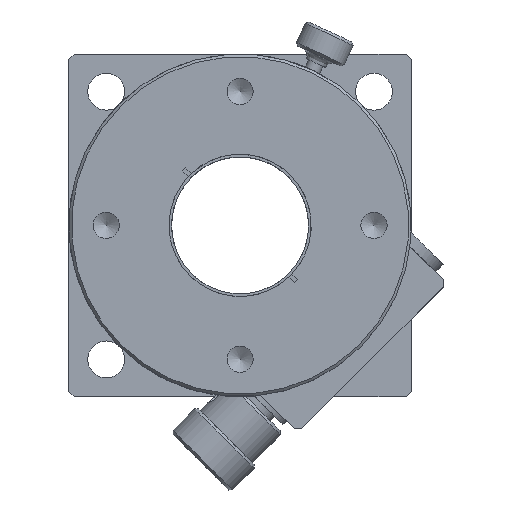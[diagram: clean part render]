
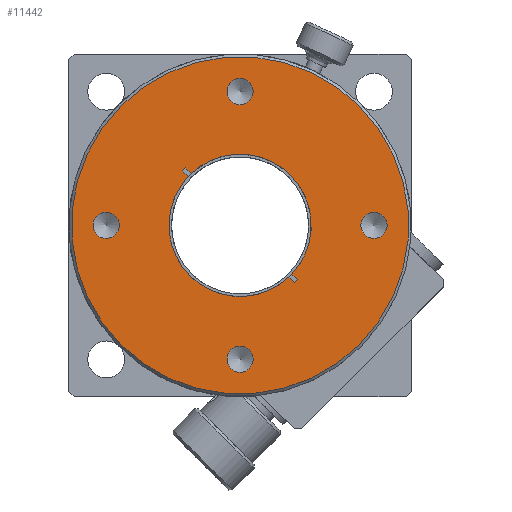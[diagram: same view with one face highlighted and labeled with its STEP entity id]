
A CAD part, top view. The second image highlights one B-rep face of the part: STEP entity #11442.
In plain terms, the highlighted planar face has unit normal (0, 0, 1).
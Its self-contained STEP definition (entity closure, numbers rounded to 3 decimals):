
#10533=CARTESIAN_POINT('',(0.,32.,0.));
#10534=VERTEX_POINT('',#10533);
#10535=CARTESIAN_POINT('',(0.0,0.,0.));
#10536=DIRECTION('',(0.0,0.0,-1.0));
#10537=DIRECTION('',(0.0,-1.0,0.0));
#10538=AXIS2_PLACEMENT_3D('',#10535,#10536,#10537);
#10539=CIRCLE('',#10538,32.);
#10540=EDGE_CURVE('',#10534,#10534,#10539,.T.);
#10612=CARTESIAN_POINT('',(17.961,-20.45,0.));
#10613=VERTEX_POINT('',#10612);
#10614=CARTESIAN_POINT('',(17.961,-17.961,0.));
#10615=DIRECTION('',(0.0,0.0,-1.0));
#10616=DIRECTION('',(0.0,-1.0,0.0));
#10617=AXIS2_PLACEMENT_3D('',#10614,#10615,#10616);
#10618=CIRCLE('',#10617,2.489);
#10619=EDGE_CURVE('',#10613,#10613,#10618,.T.);
#10691=CARTESIAN_POINT('',(-20.45,-17.961,0.));
#10692=VERTEX_POINT('',#10691);
#10693=CARTESIAN_POINT('',(-17.961,-17.961,0.));
#10694=DIRECTION('',(0.0,0.0,-1.0));
#10695=DIRECTION('',(-1.0,0.0,0.0));
#10696=AXIS2_PLACEMENT_3D('',#10693,#10694,#10695);
#10697=CIRCLE('',#10696,2.489);
#10698=EDGE_CURVE('',#10692,#10692,#10697,.T.);
#10770=CARTESIAN_POINT('',(-17.961,20.45,0.));
#10771=VERTEX_POINT('',#10770);
#10772=CARTESIAN_POINT('',(-17.961,17.961,0.));
#10773=DIRECTION('',(0.0,0.0,-1.0));
#10774=DIRECTION('',(0.0,1.0,0.0));
#10775=AXIS2_PLACEMENT_3D('',#10772,#10773,#10774);
#10776=CIRCLE('',#10775,2.489);
#10777=EDGE_CURVE('',#10771,#10771,#10776,.T.);
#10849=CARTESIAN_POINT('',(20.45,17.961,0.));
#10850=VERTEX_POINT('',#10849);
#10851=CARTESIAN_POINT('',(17.961,17.961,0.));
#10852=DIRECTION('',(0.0,0.0,-1.0));
#10853=DIRECTION('',(1.0,0.0,0.0));
#10854=AXIS2_PLACEMENT_3D('',#10851,#10852,#10853);
#10855=CIRCLE('',#10854,2.489);
#10856=EDGE_CURVE('',#10850,#10850,#10855,.T.);
#11024=CARTESIAN_POINT('',(14.995,-0.4,0.));
#11025=VERTEX_POINT('',#11024);
#11032=CARTESIAN_POINT('',(14.995,0.4,0.));
#11033=VERTEX_POINT('',#11032);
#11034=CARTESIAN_POINT('',(0.0,0.,0.));
#11035=DIRECTION('',(0.0,0.0,-1.0));
#11036=DIRECTION('',(1.0,0.0,0.0));
#11037=AXIS2_PLACEMENT_3D('',#11034,#11035,#11036);
#11038=CIRCLE('',#11037,15.0);
#11039=EDGE_CURVE('',#11033,#11025,#11038,.T.);
#11310=CARTESIAN_POINT('',(-13.494,-0.4,0.));
#11311=VERTEX_POINT('',#11310);
#11318=CARTESIAN_POINT('',(13.494,-0.4,0.));
#11319=VERTEX_POINT('',#11318);
#11320=CARTESIAN_POINT('',(0.0,0.,0.));
#11321=DIRECTION('',(0.0,0.0,-1.0));
#11322=DIRECTION('',(-1.0,0.0,0.0));
#11323=AXIS2_PLACEMENT_3D('',#11320,#11321,#11322);
#11324=CIRCLE('',#11323,13.5);
#11325=EDGE_CURVE('',#11319,#11311,#11324,.T.);
#11344=CARTESIAN_POINT('',(13.494,0.4,0.));
#11345=VERTEX_POINT('',#11344);
#11352=CARTESIAN_POINT('',(-13.494,0.4,0.));
#11353=VERTEX_POINT('',#11352);
#11354=CARTESIAN_POINT('',(0.0,0.,0.));
#11355=DIRECTION('',(0.0,0.0,-1.0));
#11356=DIRECTION('',(-1.0,0.0,0.0));
#11357=AXIS2_PLACEMENT_3D('',#11354,#11355,#11356);
#11358=CIRCLE('',#11357,13.5);
#11359=EDGE_CURVE('',#11353,#11345,#11358,.T.);
#11382=CARTESIAN_POINT('',(0.0,16.25,0.0));
#11383=DIRECTION('',(0.0,0.0,1.0));
#11384=DIRECTION('',(1.0,0.0,0.0));
#11385=AXIS2_PLACEMENT_3D('',#11382,#11383,#11384);
#11386=PLANE('',#11385);
#11387=ORIENTED_EDGE('',*,*,#10540,.F.);
#11388=EDGE_LOOP('',(#11387));
#11389=FACE_OUTER_BOUND('',#11388,.T.);
#11390=ORIENTED_EDGE('',*,*,#11039,.T.);
#11391=CARTESIAN_POINT('',(14.995,-0.4,0.));
#11392=DIRECTION('',(-1.0,0.0,0.0));
#11393=VECTOR('',#11392,1.501);
#11394=LINE('',#11391,#11393);
#11395=EDGE_CURVE('',#11025,#11319,#11394,.T.);
#11396=ORIENTED_EDGE('',*,*,#11395,.T.);
#11397=ORIENTED_EDGE('',*,*,#11325,.T.);
#11398=CARTESIAN_POINT('',(-14.995,-0.4,0.));
#11399=VERTEX_POINT('',#11398);
#11400=CARTESIAN_POINT('',(-13.494,-0.4,0.));
#11401=DIRECTION('',(-1.0,0.0,0.0));
#11402=VECTOR('',#11401,1.501);
#11403=LINE('',#11400,#11402);
#11404=EDGE_CURVE('',#11311,#11399,#11403,.T.);
#11405=ORIENTED_EDGE('',*,*,#11404,.T.);
#11406=CARTESIAN_POINT('',(-14.995,0.4,0.));
#11407=VERTEX_POINT('',#11406);
#11408=CARTESIAN_POINT('',(0.0,0.,0.));
#11409=DIRECTION('',(0.0,0.0,-1.0));
#11410=DIRECTION('',(1.0,0.0,0.0));
#11411=AXIS2_PLACEMENT_3D('',#11408,#11409,#11410);
#11412=CIRCLE('',#11411,15.0);
#11413=EDGE_CURVE('',#11399,#11407,#11412,.T.);
#11414=ORIENTED_EDGE('',*,*,#11413,.T.);
#11415=CARTESIAN_POINT('',(-14.995,0.4,0.));
#11416=DIRECTION('',(1.0,0.0,0.0));
#11417=VECTOR('',#11416,1.501);
#11418=LINE('',#11415,#11417);
#11419=EDGE_CURVE('',#11407,#11353,#11418,.T.);
#11420=ORIENTED_EDGE('',*,*,#11419,.T.);
#11421=ORIENTED_EDGE('',*,*,#11359,.T.);
#11422=CARTESIAN_POINT('',(13.494,0.4,0.));
#11423=DIRECTION('',(1.0,0.0,0.0));
#11424=VECTOR('',#11423,1.501);
#11425=LINE('',#11422,#11424);
#11426=EDGE_CURVE('',#11345,#11033,#11425,.T.);
#11427=ORIENTED_EDGE('',*,*,#11426,.T.);
#11428=EDGE_LOOP('',(#11390,#11396,#11397,#11405,#11414,#11420,#11421,#11427));
#11429=FACE_BOUND('',#11428,.T.);
#11430=ORIENTED_EDGE('',*,*,#10619,.T.);
#11431=EDGE_LOOP('',(#11430));
#11432=FACE_BOUND('',#11431,.T.);
#11433=ORIENTED_EDGE('',*,*,#10698,.T.);
#11434=EDGE_LOOP('',(#11433));
#11435=FACE_BOUND('',#11434,.T.);
#11436=ORIENTED_EDGE('',*,*,#10777,.T.);
#11437=EDGE_LOOP('',(#11436));
#11438=FACE_BOUND('',#11437,.T.);
#11439=ORIENTED_EDGE('',*,*,#10856,.T.);
#11440=EDGE_LOOP('',(#11439));
#11441=FACE_BOUND('',#11440,.T.);
#11442=ADVANCED_FACE('',(#11389,#11429,#11432,#11435,#11438,#11441),#11386,.T.);
